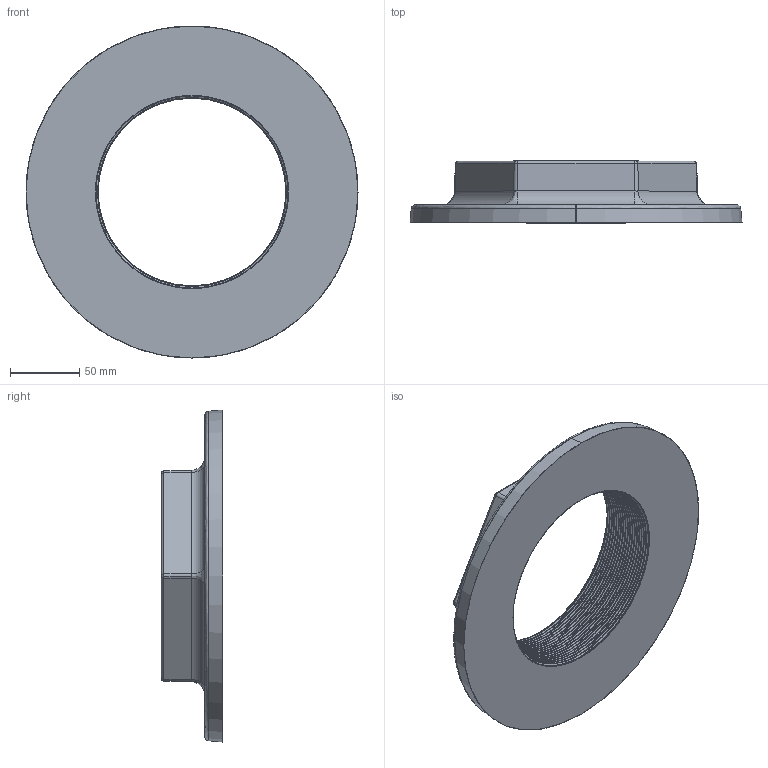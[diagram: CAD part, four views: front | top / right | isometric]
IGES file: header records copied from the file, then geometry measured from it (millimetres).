
Start section: SolidWorks IGES file using analytic representation for surfaces
Global section: file name: C:\Users\Joel Rosa\Desktop\Tubulação\12-99-OK\12-99-015.IGS; native system: SolidWorks 2011; preprocessor: SolidWorks 2011; author: Joel Rosa; date: 131021.214911; units: millimetre
Bounding box: 240 x 44.5 x 240 mm (x, y, z)
Surface area: 113716.4 mm2 (no closed solid volume)
Topology: 0 solids, 0 shells, 320 faces, 2368 edges, 2368 vertices
Faces by surface type: bspline 219, revolution 101
